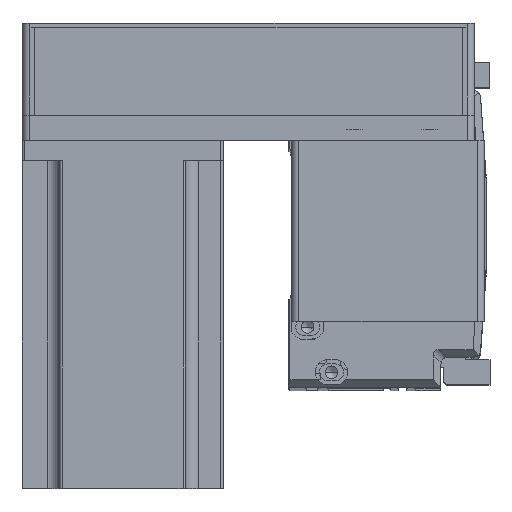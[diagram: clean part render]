
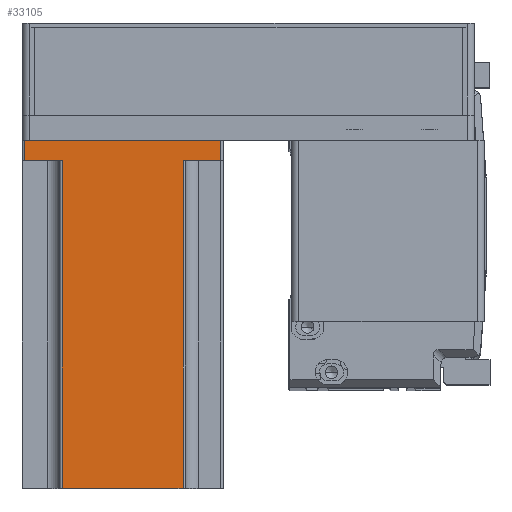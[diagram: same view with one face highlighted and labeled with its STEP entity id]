
A CAD part, top view. The second image highlights one B-rep face of the part: STEP entity #33105.
In plain terms, the highlighted planar face has unit normal (0, 0, 1) as drawn and (0, 1, 0) by its records, which use the part's own axes.
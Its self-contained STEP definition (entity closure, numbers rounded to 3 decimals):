
#715 = VERTEX_POINT ( 'NONE', #16974 ) ;
#717 = CARTESIAN_POINT ( 'NONE',  ( 40., 40., 0. ) ) ;
#1246 = DIRECTION ( 'NONE',  ( 0., -1., 0. ) ) ;
#1822 = EDGE_CURVE ( 'NONE', #3378, #19147, #37759, .T. ) ;
#2769 = DIRECTION ( 'NONE',  ( 0., 0., 1. ) ) ;
#2910 = ORIENTED_EDGE ( 'NONE', *, *, #29502, .T. ) ;
#3378 = VERTEX_POINT ( 'NONE', #5347 ) ;
#4379 = DIRECTION ( 'NONE',  ( -1., 0., 0. ) ) ;
#4567 = CARTESIAN_POINT ( 'NONE',  ( 39., 40., 138.3 ) ) ;
#4600 = ORIENTED_EDGE ( 'NONE', *, *, #23418, .T. ) ;
#5347 = CARTESIAN_POINT ( 'NONE',  ( -24., 40., 8. ) ) ;
#6390 = DIRECTION ( 'NONE',  ( 0., 0., 1. ) ) ;
#6663 = VERTEX_POINT ( 'NONE', #15281 ) ;
#6770 = LINE ( 'NONE', #40518, #26298 ) ;
#7285 = LINE ( 'NONE', #717, #25660 ) ;
#7649 = VECTOR ( 'NONE', #17420, 1000. ) ;
#8798 = ORIENTED_EDGE ( 'NONE', *, *, #1822, .T. ) ;
#10664 = VERTEX_POINT ( 'NONE', #26133 ) ;
#10940 = LINE ( 'NONE', #21628, #40232 ) ;
#11515 = VERTEX_POINT ( 'NONE', #15304 ) ;
#12633 = EDGE_CURVE ( 'NONE', #11515, #10664, #17442, .T. ) ;
#13533 = EDGE_CURVE ( 'NONE', #715, #10664, #21254, .T. ) ;
#13654 = CARTESIAN_POINT ( 'NONE',  ( -39., 40., 138.3 ) ) ;
#13944 = CARTESIAN_POINT ( 'NONE',  ( -24., 40., 138.3 ) ) ;
#15281 = CARTESIAN_POINT ( 'NONE',  ( 39., 40., 0. ) ) ;
#15304 = CARTESIAN_POINT ( 'NONE',  ( 24., 40., 138.3 ) ) ;
#15329 = VECTOR ( 'NONE', #2769, 1000. ) ;
#15556 = DIRECTION ( 'NONE',  ( -1., 0., 0. ) ) ;
#16974 = CARTESIAN_POINT ( 'NONE',  ( 39., 40., 8. ) ) ;
#17420 = DIRECTION ( 'NONE',  ( 0., 0., -1. ) ) ;
#17442 = LINE ( 'NONE', #39392, #7649 ) ;
#18256 = VECTOR ( 'NONE', #6390, 1000. ) ;
#18386 = DIRECTION ( 'NONE',  ( -1., 0., 0. ) ) ;
#18790 = EDGE_CURVE ( 'NONE', #715, #6663, #22613, .T. ) ;
#18884 = ORIENTED_EDGE ( 'NONE', *, *, #18790, .T. ) ;
#19147 = VERTEX_POINT ( 'NONE', #32116 ) ;
#19666 = ORIENTED_EDGE ( 'NONE', *, *, #12633, .T. ) ;
#21254 = LINE ( 'NONE', #44909, #39657 ) ;
#21408 = EDGE_LOOP ( 'NONE', ( #42357, #8798, #36665, #19666, #23537, #18884, #4600, #2910 ) ) ;
#21628 = CARTESIAN_POINT ( 'NONE',  ( -25., 40., 8. ) ) ;
#21696 = EDGE_CURVE ( 'NONE', #11515, #19147, #6770, .T. ) ;
#22613 = LINE ( 'NONE', #4567, #31226 ) ;
#23202 = CARTESIAN_POINT ( 'NONE',  ( 40., 40., 138.3 ) ) ;
#23418 = EDGE_CURVE ( 'NONE', #6663, #32534, #7285, .T. ) ;
#23537 = ORIENTED_EDGE ( 'NONE', *, *, #13533, .F. ) ;
#25660 = VECTOR ( 'NONE', #4379, 1000. ) ;
#26133 = CARTESIAN_POINT ( 'NONE',  ( 24., 40., 8. ) ) ;
#26298 = VECTOR ( 'NONE', #18386, 1000. ) ;
#26906 = DIRECTION ( 'NONE',  ( 1., 0., 0. ) ) ;
#28483 = CARTESIAN_POINT ( 'NONE',  ( -39., 40., 8. ) ) ;
#29502 = EDGE_CURVE ( 'NONE', #32534, #39766, #34869, .T. ) ;
#30419 = PLANE ( 'NONE',  #44135 ) ;
#31226 = VECTOR ( 'NONE', #33935, 1000. ) ;
#32116 = CARTESIAN_POINT ( 'NONE',  ( -24., 40., 138.3 ) ) ;
#32534 = VERTEX_POINT ( 'NONE', #36579 ) ;
#33105 = ADVANCED_FACE ( 'NONE', ( #36044 ), #30419, .F. ) ;
#33935 = DIRECTION ( 'NONE',  ( 0., 0., -1. ) ) ;
#34869 = LINE ( 'NONE', #13654, #15329 ) ;
#36044 = FACE_OUTER_BOUND ( 'NONE', #21408, .T. ) ;
#36579 = CARTESIAN_POINT ( 'NONE',  ( -39., 40., 0. ) ) ;
#36665 = ORIENTED_EDGE ( 'NONE', *, *, #21696, .F. ) ;
#37253 = EDGE_CURVE ( 'NONE', #39766, #3378, #10940, .T. ) ;
#37759 = LINE ( 'NONE', #13944, #18256 ) ;
#39392 = CARTESIAN_POINT ( 'NONE',  ( 24., 40., 138.3 ) ) ;
#39657 = VECTOR ( 'NONE', #15556, 1000. ) ;
#39766 = VERTEX_POINT ( 'NONE', #28483 ) ;
#40232 = VECTOR ( 'NONE', #43660, 1000. ) ;
#40518 = CARTESIAN_POINT ( 'NONE',  ( 40., 40., 138.3 ) ) ;
#42357 = ORIENTED_EDGE ( 'NONE', *, *, #37253, .T. ) ;
#43660 = DIRECTION ( 'NONE',  ( 1., 0., 0. ) ) ;
#44135 = AXIS2_PLACEMENT_3D ( 'NONE', #23202, #1246, #26906 ) ;
#44909 = CARTESIAN_POINT ( 'NONE',  ( 25., 40., 8. ) ) ;
